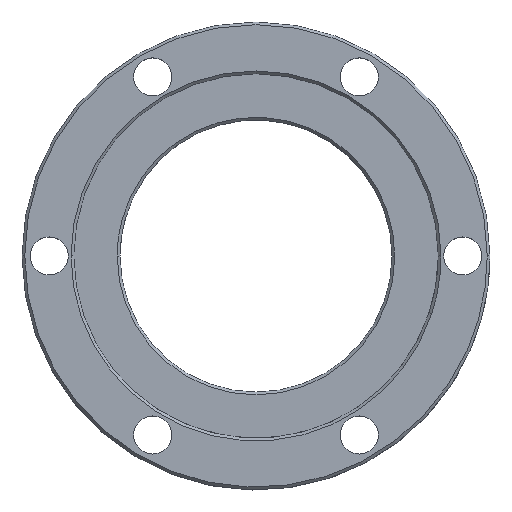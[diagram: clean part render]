
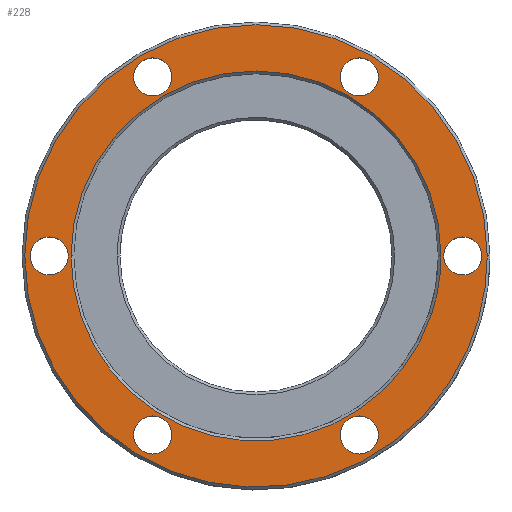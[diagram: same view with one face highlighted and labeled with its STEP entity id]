
A CAD part, top view. The second image highlights one B-rep face of the part: STEP entity #228.
In plain terms, the highlighted planar face has unit normal (0, 0, 1).
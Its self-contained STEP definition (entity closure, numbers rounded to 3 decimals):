
#39=AXIS2_PLACEMENT_3D('Circle Axis2P3D',#37,#38,$) ;
#75=AXIS2_PLACEMENT_3D('Plane Axis2P3D',#72,#73,#74) ;
#79=AXIS2_PLACEMENT_3D('Circle Axis2P3D',#77,#78,$) ;
#88=AXIS2_PLACEMENT_3D('Circle Axis2P3D',#86,#87,$) ;
#95=AXIS2_PLACEMENT_3D('Circle Axis2P3D',#93,#94,$) ;
#105=AXIS2_PLACEMENT_3D('Circle Axis2P3D',#103,#104,$) ;
#114=AXIS2_PLACEMENT_3D('Circle Axis2P3D',#112,#113,$) ;
#121=AXIS2_PLACEMENT_3D('Circle Axis2P3D',#119,#120,$) ;
#131=AXIS2_PLACEMENT_3D('Circle Axis2P3D',#129,#130,$) ;
#140=AXIS2_PLACEMENT_3D('Circle Axis2P3D',#138,#139,$) ;
#149=AXIS2_PLACEMENT_3D('Circle Axis2P3D',#147,#148,$) ;
#158=AXIS2_PLACEMENT_3D('Circle Axis2P3D',#156,#157,$) ;
#167=AXIS2_PLACEMENT_3D('Circle Axis2P3D',#165,#166,$) ;
#176=AXIS2_PLACEMENT_3D('Circle Axis2P3D',#174,#175,$) ;
#185=AXIS2_PLACEMENT_3D('Circle Axis2P3D',#183,#184,$) ;
#194=AXIS2_PLACEMENT_3D('Circle Axis2P3D',#192,#193,$) ;
#203=AXIS2_PLACEMENT_3D('Circle Axis2P3D',#201,#202,$) ;
#212=AXIS2_PLACEMENT_3D('Circle Axis2P3D',#210,#211,$) ;
#221=AXIS2_PLACEMENT_3D('Circle Axis2P3D',#219,#220,$) ;
#37=CARTESIAN_POINT('Axis2P3D Location',(-19.,32.909,0.)) ;
#41=CARTESIAN_POINT('Vertex',(-22.5,32.909,0.)) ;
#43=CARTESIAN_POINT('Vertex',(-15.5,32.909,0.)) ;
#72=CARTESIAN_POINT('Axis2P3D Location',(0.,0.,0.)) ;
#77=CARTESIAN_POINT('Axis2P3D Location',(0.,0.,0.)) ;
#81=CARTESIAN_POINT('Vertex',(-42.5,0.,0.)) ;
#83=CARTESIAN_POINT('Vertex',(38.886,-17.151,0.)) ;
#86=CARTESIAN_POINT('Axis2P3D Location',(0.,0.,0.)) ;
#90=CARTESIAN_POINT('Vertex',(42.5,0.,0.)) ;
#93=CARTESIAN_POINT('Axis2P3D Location',(0.,0.,0.)) ;
#103=CARTESIAN_POINT('Axis2P3D Location',(0.,0.,0.)) ;
#107=CARTESIAN_POINT('Vertex',(32.303,-10.608,0.)) ;
#109=CARTESIAN_POINT('Vertex',(34.,0.,0.)) ;
#112=CARTESIAN_POINT('Axis2P3D Location',(0.,0.,0.)) ;
#116=CARTESIAN_POINT('Vertex',(-34.,0.,0.)) ;
#119=CARTESIAN_POINT('Axis2P3D Location',(0.,0.,0.)) ;
#129=CARTESIAN_POINT('Axis2P3D Location',(-19.,-32.909,0.)) ;
#133=CARTESIAN_POINT('Vertex',(-17.25,-35.94,0.)) ;
#135=CARTESIAN_POINT('Vertex',(-20.75,-29.878,0.)) ;
#138=CARTESIAN_POINT('Axis2P3D Location',(-19.,-32.909,0.)) ;
#147=CARTESIAN_POINT('Axis2P3D Location',(-19.,32.909,0.)) ;
#156=CARTESIAN_POINT('Axis2P3D Location',(-38.,0.,0.)) ;
#160=CARTESIAN_POINT('Vertex',(-39.75,-3.031,0.)) ;
#162=CARTESIAN_POINT('Vertex',(-36.25,3.031,0.)) ;
#165=CARTESIAN_POINT('Axis2P3D Location',(-38.,0.,0.)) ;
#174=CARTESIAN_POINT('Axis2P3D Location',(19.,-32.909,0.)) ;
#178=CARTESIAN_POINT('Vertex',(22.5,-32.909,0.)) ;
#180=CARTESIAN_POINT('Vertex',(15.5,-32.909,0.)) ;
#183=CARTESIAN_POINT('Axis2P3D Location',(19.,-32.909,0.)) ;
#192=CARTESIAN_POINT('Axis2P3D Location',(38.,0.,0.)) ;
#196=CARTESIAN_POINT('Vertex',(39.75,3.031,0.)) ;
#198=CARTESIAN_POINT('Vertex',(36.25,-3.031,0.)) ;
#201=CARTESIAN_POINT('Axis2P3D Location',(38.,0.,0.)) ;
#210=CARTESIAN_POINT('Axis2P3D Location',(19.,32.909,0.)) ;
#214=CARTESIAN_POINT('Vertex',(17.25,35.94,0.)) ;
#216=CARTESIAN_POINT('Vertex',(20.75,29.878,0.)) ;
#219=CARTESIAN_POINT('Axis2P3D Location',(19.,32.909,0.)) ;
#38=DIRECTION('Axis2P3D Direction',(0.,0.,1.)) ;
#73=DIRECTION('Axis2P3D Direction',(0.,0.,1.)) ;
#74=DIRECTION('Axis2P3D XDirection',(1.,0.,0.)) ;
#78=DIRECTION('Axis2P3D Direction',(0.,0.,1.)) ;
#87=DIRECTION('Axis2P3D Direction',(0.,0.,1.)) ;
#94=DIRECTION('Axis2P3D Direction',(0.,0.,1.)) ;
#104=DIRECTION('Axis2P3D Direction',(0.,0.,1.)) ;
#113=DIRECTION('Axis2P3D Direction',(0.,0.,1.)) ;
#120=DIRECTION('Axis2P3D Direction',(0.,0.,1.)) ;
#130=DIRECTION('Axis2P3D Direction',(0.,0.,1.)) ;
#139=DIRECTION('Axis2P3D Direction',(0.,0.,1.)) ;
#148=DIRECTION('Axis2P3D Direction',(0.,0.,1.)) ;
#157=DIRECTION('Axis2P3D Direction',(0.,0.,1.)) ;
#166=DIRECTION('Axis2P3D Direction',(0.,0.,1.)) ;
#175=DIRECTION('Axis2P3D Direction',(0.,0.,1.)) ;
#184=DIRECTION('Axis2P3D Direction',(0.,0.,1.)) ;
#193=DIRECTION('Axis2P3D Direction',(0.,0.,1.)) ;
#202=DIRECTION('Axis2P3D Direction',(0.,0.,1.)) ;
#211=DIRECTION('Axis2P3D Direction',(0.,0.,1.)) ;
#220=DIRECTION('Axis2P3D Direction',(0.,0.,1.)) ;
#99=ORIENTED_EDGE('',*,*,#85,.T.) ;
#100=ORIENTED_EDGE('',*,*,#92,.T.) ;
#101=ORIENTED_EDGE('',*,*,#97,.T.) ;
#125=ORIENTED_EDGE('',*,*,#111,.F.) ;
#126=ORIENTED_EDGE('',*,*,#118,.F.) ;
#127=ORIENTED_EDGE('',*,*,#123,.F.) ;
#144=ORIENTED_EDGE('',*,*,#137,.F.) ;
#145=ORIENTED_EDGE('',*,*,#142,.F.) ;
#153=ORIENTED_EDGE('',*,*,#151,.F.) ;
#154=ORIENTED_EDGE('',*,*,#45,.F.) ;
#171=ORIENTED_EDGE('',*,*,#164,.F.) ;
#172=ORIENTED_EDGE('',*,*,#169,.F.) ;
#189=ORIENTED_EDGE('',*,*,#182,.F.) ;
#190=ORIENTED_EDGE('',*,*,#187,.F.) ;
#207=ORIENTED_EDGE('',*,*,#200,.F.) ;
#208=ORIENTED_EDGE('',*,*,#205,.F.) ;
#225=ORIENTED_EDGE('',*,*,#218,.F.) ;
#226=ORIENTED_EDGE('',*,*,#223,.F.) ;
#128=FACE_BOUND('',#124,.T.) ;
#146=FACE_BOUND('',#143,.T.) ;
#155=FACE_BOUND('',#152,.T.) ;
#173=FACE_BOUND('',#170,.T.) ;
#191=FACE_BOUND('',#188,.T.) ;
#209=FACE_BOUND('',#206,.T.) ;
#227=FACE_BOUND('',#224,.T.) ;
#228=ADVANCED_FACE('\X2\96F64EF651E04F554F53\X0\',(#102,#128,#146,#155,#173,#191,#209,#227),#76,.T.) ;
#40=CIRCLE('generated circle',#39,3.5) ;
#80=CIRCLE('generated circle',#79,42.5) ;
#89=CIRCLE('generated circle',#88,42.5) ;
#96=CIRCLE('generated circle',#95,42.5) ;
#106=CIRCLE('generated circle',#105,34.) ;
#115=CIRCLE('generated circle',#114,34.) ;
#122=CIRCLE('generated circle',#121,34.) ;
#132=CIRCLE('generated circle',#131,3.5) ;
#141=CIRCLE('generated circle',#140,3.5) ;
#150=CIRCLE('generated circle',#149,3.5) ;
#159=CIRCLE('generated circle',#158,3.5) ;
#168=CIRCLE('generated circle',#167,3.5) ;
#177=CIRCLE('generated circle',#176,3.5) ;
#186=CIRCLE('generated circle',#185,3.5) ;
#195=CIRCLE('generated circle',#194,3.5) ;
#204=CIRCLE('generated circle',#203,3.5) ;
#213=CIRCLE('generated circle',#212,3.5) ;
#222=CIRCLE('generated circle',#221,3.5) ;
#45=EDGE_CURVE('',#42,#44,#40,.T.) ;
#85=EDGE_CURVE('',#82,#84,#80,.T.) ;
#92=EDGE_CURVE('',#84,#91,#89,.T.) ;
#97=EDGE_CURVE('',#91,#82,#96,.T.) ;
#111=EDGE_CURVE('',#108,#110,#106,.T.) ;
#118=EDGE_CURVE('',#117,#108,#115,.T.) ;
#123=EDGE_CURVE('',#110,#117,#122,.T.) ;
#137=EDGE_CURVE('',#134,#136,#132,.T.) ;
#142=EDGE_CURVE('',#136,#134,#141,.T.) ;
#151=EDGE_CURVE('',#44,#42,#150,.T.) ;
#164=EDGE_CURVE('',#161,#163,#159,.T.) ;
#169=EDGE_CURVE('',#163,#161,#168,.T.) ;
#182=EDGE_CURVE('',#179,#181,#177,.T.) ;
#187=EDGE_CURVE('',#181,#179,#186,.T.) ;
#200=EDGE_CURVE('',#197,#199,#195,.T.) ;
#205=EDGE_CURVE('',#199,#197,#204,.T.) ;
#218=EDGE_CURVE('',#215,#217,#213,.T.) ;
#223=EDGE_CURVE('',#217,#215,#222,.T.) ;
#98=EDGE_LOOP('',(#99,#100,#101)) ;
#124=EDGE_LOOP('',(#125,#126,#127)) ;
#143=EDGE_LOOP('',(#144,#145)) ;
#152=EDGE_LOOP('',(#153,#154)) ;
#170=EDGE_LOOP('',(#171,#172)) ;
#188=EDGE_LOOP('',(#189,#190)) ;
#206=EDGE_LOOP('',(#207,#208)) ;
#224=EDGE_LOOP('',(#225,#226)) ;
#102=FACE_OUTER_BOUND('',#98,.T.) ;
#76=PLANE('Plane',#75) ;
#42=VERTEX_POINT('',#41) ;
#44=VERTEX_POINT('',#43) ;
#82=VERTEX_POINT('',#81) ;
#84=VERTEX_POINT('',#83) ;
#91=VERTEX_POINT('',#90) ;
#108=VERTEX_POINT('',#107) ;
#110=VERTEX_POINT('',#109) ;
#117=VERTEX_POINT('',#116) ;
#134=VERTEX_POINT('',#133) ;
#136=VERTEX_POINT('',#135) ;
#161=VERTEX_POINT('',#160) ;
#163=VERTEX_POINT('',#162) ;
#179=VERTEX_POINT('',#178) ;
#181=VERTEX_POINT('',#180) ;
#197=VERTEX_POINT('',#196) ;
#199=VERTEX_POINT('',#198) ;
#215=VERTEX_POINT('',#214) ;
#217=VERTEX_POINT('',#216) ;
